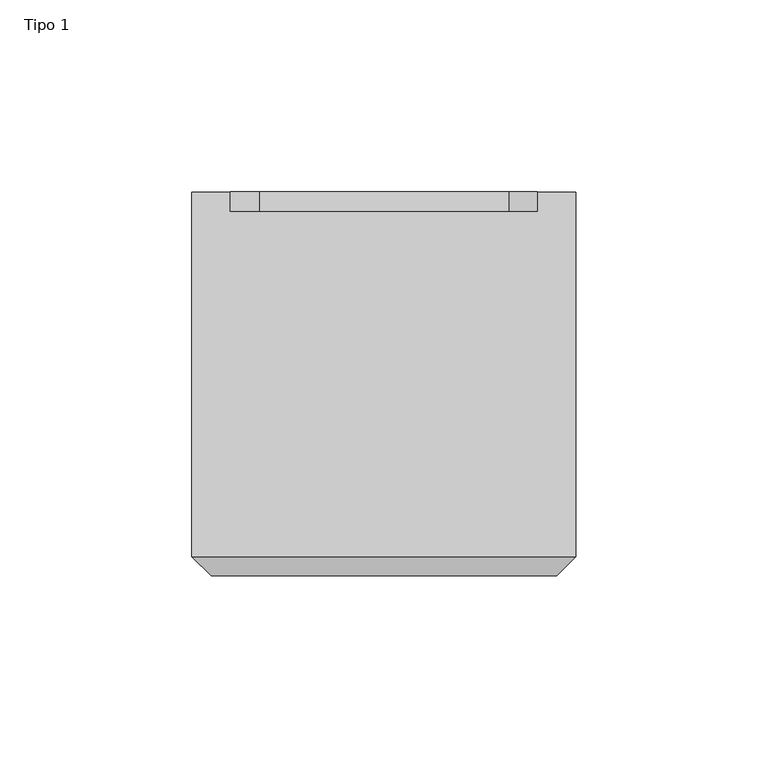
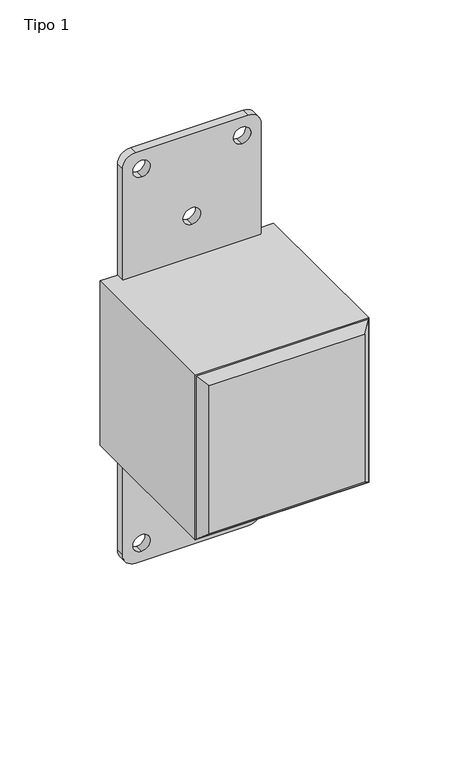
"""IFC4 building model written with IfcOpenShell, lengths in millimetres: proxy geometry, Ercole lineare verticale : Tipo 1."""

from ifc_helpers import new_model, si_unit, point, frame, frame_2d, origin, place, context, project, spatial, polyline, circle_curve, trimmed, segment, composite_curve, outline, extrude, faceted_brep, source, transform, mapped, element, save


def tipo_1_40fdfaa1(model_context):
    return source(origin(), model_context, "Body", "SolidModel", [
        extrude(outline(polyline([(175.0, -170.0), (75.0, -170.0), (75.0, -75.0), (85.0000271, -75.0), (85.0000271, -80.0), (164.9999729, -80.0), (164.9999729, -75.0), (175.0, -75.0), (175.0, -170.0)])), frame((0.0, 0.0, 629.7029033), z_axis=(0.0, 0.0, 1.0), x_axis=(1.0, 0.0, 0.0)), (0.0, 0.0, 1.0), 100.0),
        faceted_brep([(170.0, -175.0, 724.7029033), (80.0, -175.0, 724.7029033), (80.0, -175.0, 634.7029033), (170.0, -175.0, 634.7029033), (175.0, -170.0, 729.7029033), (175.0, -170.0, 629.7029033), (75.0, -170.0, 629.7029033), (75.0, -170.0, 729.7029033)], [[[0, 1, 2, 3]], [[4, 5, 6, 7]], [[5, 4, 0, 3]], [[6, 5, 3, 2]], [[7, 6, 2, 1]], [[4, 7, 1, 0]]]),
        extrude(outline(composite_curve([segment(polyline([(554.7031181, 92.5000271), (554.7031181, 157.4999729)]), True, "CONTINUOUS"), segment(trimmed(circle_curve(frame_2d((562.2031181, 157.4999729)), 7.5), [point((554.7031181, 157.4999729))], [point((562.2031181, 164.9999729))], False, "CARTESIAN"), True, "CONTINUOUS"), segment(polyline([(562.2031181, 164.9999729), (797.2026886, 164.9999729)]), True, "CONTINUOUS"), segment(trimmed(circle_curve(frame_2d((797.2026886, 157.4999729)), 7.5), [point((797.2026886, 164.9999729))], [point((804.7026886, 157.4999729))], False, "CARTESIAN"), True, "CONTINUOUS"), segment(polyline([(804.7026886, 157.4999729), (804.7026886, 92.5000271)]), True, "CONTINUOUS"), segment(trimmed(circle_curve(frame_2d((797.2026886, 92.5000271)), 7.5), [point((804.7026886, 92.5000271))], [point((797.2026886, 85.0000271))], False, "CARTESIAN"), True, "CONTINUOUS"), segment(polyline([(797.2026886, 85.0000271), (562.2031181, 85.0000271)]), True, "CONTINUOUS"), segment(trimmed(circle_curve(frame_2d((562.2031181, 92.5000271)), 7.5), [point((562.2031181, 85.0000271))], [point((554.7031181, 92.5000271))], False, "CARTESIAN"), True, "CONTINUOUS")], self_intersect=False), holes=[composite_curve([segment(trimmed(circle_curve(frame_2d((565.7074089, 95.9998481)), 5.0), [point((560.7074089, 95.9998481))], [point((570.7074089, 95.9998481))], True, "CARTESIAN"), True, "CONTINUOUS"), segment(trimmed(circle_curve(frame_2d((565.7074089, 95.9998481)), 5.0), [point((570.7074089, 95.9998481))], [point((560.7074089, 95.9998481))], True, "CARTESIAN"), True, "CONTINUOUS")], self_intersect=False), composite_curve([segment(trimmed(circle_curve(frame_2d((565.7029888, 154.0001148)), 5.0), [point((560.7029888, 154.0001148))], [point((570.7029888, 154.0001148))], True, "CARTESIAN"), True, "CONTINUOUS"), segment(trimmed(circle_curve(frame_2d((565.7029888, 154.0001148)), 5.0), [point((570.7029888, 154.0001148))], [point((560.7029888, 154.0001148))], True, "CARTESIAN"), True, "CONTINUOUS")], self_intersect=False), composite_curve([segment(trimmed(circle_curve(frame_2d((604.7031181, 125.0)), 5.0), [point((609.7031181, 125.0))], [point((599.7031181, 125.0))], True, "CARTESIAN"), True, "CONTINUOUS"), segment(trimmed(circle_curve(frame_2d((604.7031181, 125.0)), 5.0), [point((599.7031181, 125.0))], [point((609.7031181, 125.0))], True, "CARTESIAN"), True, "CONTINUOUS")], self_intersect=False), composite_curve([segment(trimmed(circle_curve(frame_2d((754.7026886, 125.0)), 5.0), [point((749.7026886, 125.0))], [point((759.7026886, 125.0))], True, "CARTESIAN"), True, "CONTINUOUS"), segment(trimmed(circle_curve(frame_2d((754.7026886, 125.0)), 5.0), [point((759.7026886, 125.0))], [point((749.7026886, 125.0))], True, "CARTESIAN"), True, "CONTINUOUS")], self_intersect=False), composite_curve([segment(trimmed(circle_curve(frame_2d((793.7028178, 154.0001148)), 5.0), [point((788.7028178, 154.0001148))], [point((798.7028178, 154.0001148))], True, "CARTESIAN"), True, "CONTINUOUS"), segment(trimmed(circle_curve(frame_2d((793.7028178, 154.0001148)), 5.0), [point((798.7028178, 154.0001148))], [point((788.7028178, 154.0001148))], True, "CARTESIAN"), True, "CONTINUOUS")], self_intersect=False), composite_curve([segment(trimmed(circle_curve(frame_2d((793.6983977, 95.9998481)), 5.0), [point((798.6983977, 95.9998481))], [point((788.6983977, 95.9998481))], True, "CARTESIAN"), True, "CONTINUOUS"), segment(trimmed(circle_curve(frame_2d((793.6983977, 95.9998481)), 5.0), [point((788.6983977, 95.9998481))], [point((798.6983977, 95.9998481))], True, "CARTESIAN"), True, "CONTINUOUS")], self_intersect=False), composite_curve([segment(trimmed(circle_curve(frame_2d((657.7029033, 147.000016)), 3.5), [point((661.2029033, 147.000016))], [point((654.2029033, 147.000016))], True, "CARTESIAN"), True, "CONTINUOUS"), segment(trimmed(circle_curve(frame_2d((657.7029033, 147.000016)), 3.5), [point((654.2029033, 147.000016))], [point((661.2029033, 147.000016))], True, "CARTESIAN"), True, "CONTINUOUS")], self_intersect=False), composite_curve([segment(trimmed(circle_curve(frame_2d((657.7029512, 103.0003015)), 3.5), [point((661.2029512, 103.0003015))], [point((654.2029512, 103.0003015))], True, "CARTESIAN"), True, "CONTINUOUS"), segment(trimmed(circle_curve(frame_2d((657.7029512, 103.0003015)), 3.5), [point((654.2029512, 103.0003015))], [point((661.2029512, 103.0003015))], True, "CARTESIAN"), True, "CONTINUOUS")], self_intersect=False), composite_curve([segment(trimmed(circle_curve(frame_2d((701.7029033, 147.000016)), 3.5), [point((698.2029033, 147.000016))], [point((705.2029033, 147.000016))], True, "CARTESIAN"), True, "CONTINUOUS"), segment(trimmed(circle_curve(frame_2d((701.7029033, 147.000016)), 3.5), [point((705.2029033, 147.000016))], [point((698.2029033, 147.000016))], True, "CARTESIAN"), True, "CONTINUOUS")], self_intersect=False), composite_curve([segment(trimmed(circle_curve(frame_2d((701.7029512, 103.0003015)), 3.5), [point((705.2029512, 103.0003015))], [point((698.2029512, 103.0003015))], True, "CARTESIAN"), True, "CONTINUOUS"), segment(trimmed(circle_curve(frame_2d((701.7029512, 103.0003015)), 3.5), [point((698.2029512, 103.0003015))], [point((705.2029512, 103.0003015))], True, "CARTESIAN"), True, "CONTINUOUS")], self_intersect=False)]), frame((0.0, -80.0, 0.0), z_axis=(0.0, 1.0, 0.0), x_axis=(0.0, 0.0, 1.0)), (0.0, 0.0, 1.0), 5.0),
    ])


if __name__ == "__main__":
    model = new_model("IFC4")
    model_context = context("Model", 3, world=origin())
    ifc_project = project(units=[si_unit("LENGTHUNIT", "METRE", prefix="MILLI")], contexts=[model_context])
    site = spatial("IfcSite", under=ifc_project)
    building = spatial("IfcBuilding", under=site)
    placement = place(None, origin())
    tipo_1_shape = tipo_1_40fdfaa1(model_context)
    element("IfcBuildingElementProxy", 1, Name="Ercole lineare verticale : Tipo 1", ObjectType="Ercole lineare verticale : Tipo 1", at=placement, inside=building, context=model_context, shape_type="MappedRepresentation", body=[
        mapped(tipo_1_shape, transform((0.0, 0.0, 0.0), x_axis=(1.0, 0.0, 0.0), y_axis=(0.0, 1.0, 0.0), z_axis=(0.0, 0.0, 1.0))),
    ])
    save(model, "model.ifc")
